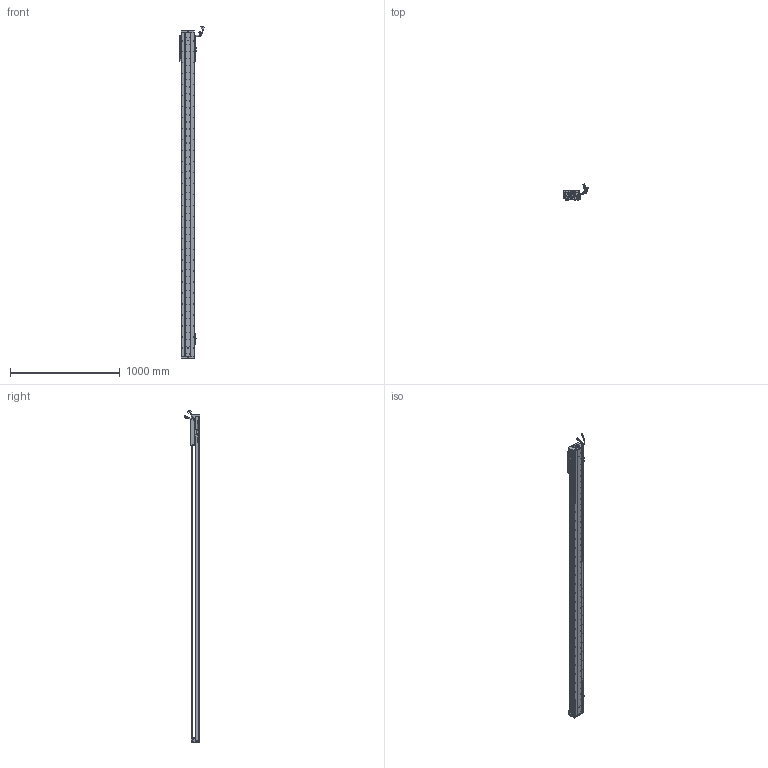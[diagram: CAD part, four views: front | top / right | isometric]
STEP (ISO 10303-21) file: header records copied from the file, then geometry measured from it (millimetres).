
FILE_DESCRIPTION (( 'STEP AP203' ), '1' );
FILE_NAME ('Z3-RY120D-1-L500-B-K.SLDASM_2650.step', '2021-05-17T05:50:56', ( '盈信电脑' ), ( '东莞市道滘镇水果街19号' ), 'SwSTEP 2.0', 'SolidWorks 2016', '' );
FILE_SCHEMA (( 'CONFIG_CONTROL_DESIGN' ));
Length unit declared in the file: millimetre
Products named in the file (37): SCREW-M1.6-1; SCREW-M1.6-2; Z-RY120D詩湍狟揤裔; PBU_SHEET; HOLDER0; HARNESS-Part-2; COVER; Z3-RY120-L500詩湍100mm遵_2650; Z-RY120D詩湍奻揤裔; 672嫖萇羲壽假蚾釱; 140蚥薯蝶輸; LABEL-Part-1; Z-120詩湍傷裔啣; SCREW-M1.7; 120-Z-臏賑輸盄裔(21遴); Z3-RY120铝滑块（21款）; SEAL-Part-1; SCREW-M1.6; SCALE-Part-1; SCALE-Part-2; SHIELDPLATE; SCALE; PSLH080_PSLF2; 140雄赽晤鎢ん堤盄; Z3-RY120-500-倰第菁釱_2650; HARNESS; SCREW-M1.7-1; HARNESS-Part-1; 080黍杅芛假蚾釱21遴; COVER-Part-1; SEAL; 覜茼ん672; SCREW-M1.6-3; 榋妏寠巭燃_暯_M2_2; LABEL; RY100FB-遵嫖萇覜茼え; Z3-RY120D-1-L500-B-K.SLDASM_2650
Assembly tree (43 placements, depth 4):
  Z3-RY120D-1-L500-B-K.SLDASM_2650
    Z3-RY120-500-倰第菁釱_2650
    覜茼ん672  x3
    672嫖萇羲壽假蚾釱  x2
    Z3-RY120铝滑块（21款）
    PSLH080_PSLF2
      SCALE
        SCALE-Part-1
        SCALE-Part-2
      HARNESS
        HARNESS-Part-1
        HARNESS-Part-2
      LABEL
        LABEL-Part-1
      COVER
        COVER-Part-1
      SEAL
        SEAL-Part-1
      榋妏寠巭燃_暯_M2_2
      SHIELDPLATE
      SCREW-M1.7
      SCREW-M1.7-1
      PBU_SHEET
      SCREW-M1.6
      SCREW-M1.6-1
      SCREW-M1.6-2
      SCREW-M1.6-3
      HOLDER0
    080黍杅芛假蚾釱21遴
    120-Z-臏賑輸盄裔(21遴)
    140雄赽晤鎢ん堤盄
    140蚥薯蝶輸  x2
    RY100FB-遵嫖萇覜茼え
    Z-120詩湍傷裔啣  x2
    Z-RY120D詩湍奻揤裔  x2
    Z-RY120D詩湍狟揤裔  x2
    Z3-RY120-L500詩湍100mm遵_2650
Bounding box: 222.83 x 140.94 x 3023.99 mm (x, y, z)
Volume: 6990972.3 mm3; surface area: 2452551.8 mm2
Topology: 38 solids, 38 shells, 3865 faces, 11083 edges, 6990 vertices
Faces by surface type: cylinder 2065, plane 1272, cone 406, torus 69, bspline 53
Entity records: 131550 total; most frequent: CARTESIAN_POINT 40851, ORIENTED_EDGE 18878, DIRECTION 17175, EDGE_CURVE 9439, AXIS2_PLACEMENT_3D 6364, VERTEX_POINT 6110, LINE 4447, VECTOR 4447
